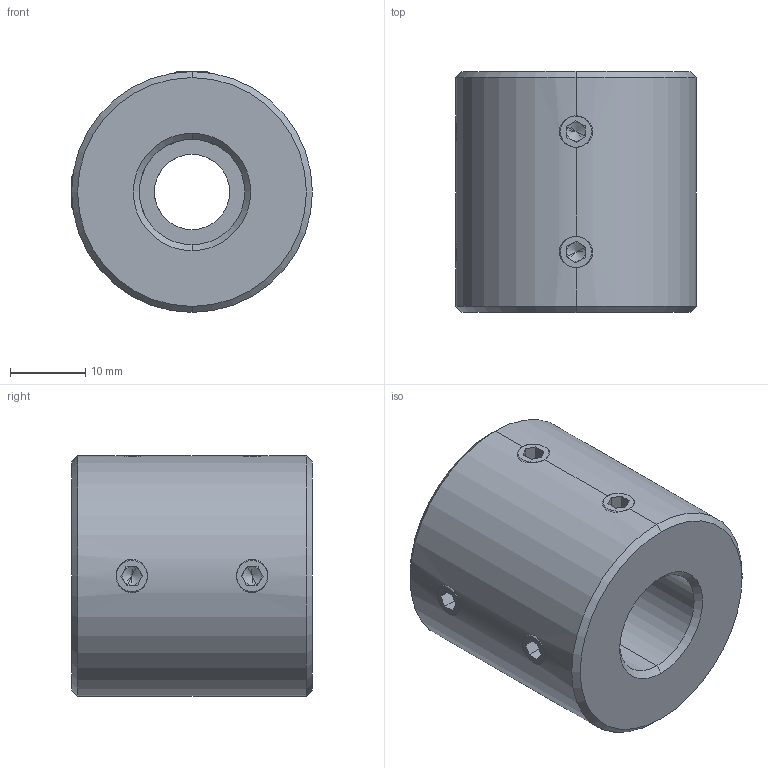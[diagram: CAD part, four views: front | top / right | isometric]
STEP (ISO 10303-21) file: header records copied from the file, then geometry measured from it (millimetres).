
FILE_DESCRIPTION (( 'STEP AP214' ), '1' );
FILE_NAME ('LL-D-D32L32-10-14½¨Ä£.STEP', '2022-07-22T11:29:18', ( '' ), ( '' ), 'SwSTEP 2.0', 'SolidWorks 2022', '' );
FILE_SCHEMA (( 'AUTOMOTIVE_DESIGN' ));
Length unit declared in the file: millimetre
Products named in the file (1): LL-D-D32L32-10-14膘耀
Bounding box: 32 x 32 x 32 mm (x, y, z)
Volume: 21762.6 mm3; surface area: 5959.9 mm2
Topology: 1 solids, 1 shells, 113 faces, 286 edges, 176 vertices
Faces by surface type: plane 59, cone 32, cylinder 22
Entity records: 3752 total; most frequent: CARTESIAN_POINT 1042, DIRECTION 558, ORIENTED_EDGE 556, EDGE_CURVE 278, AXIS2_PLACEMENT_3D 206, VERTEX_POINT 176, LINE 146, VECTOR 146
